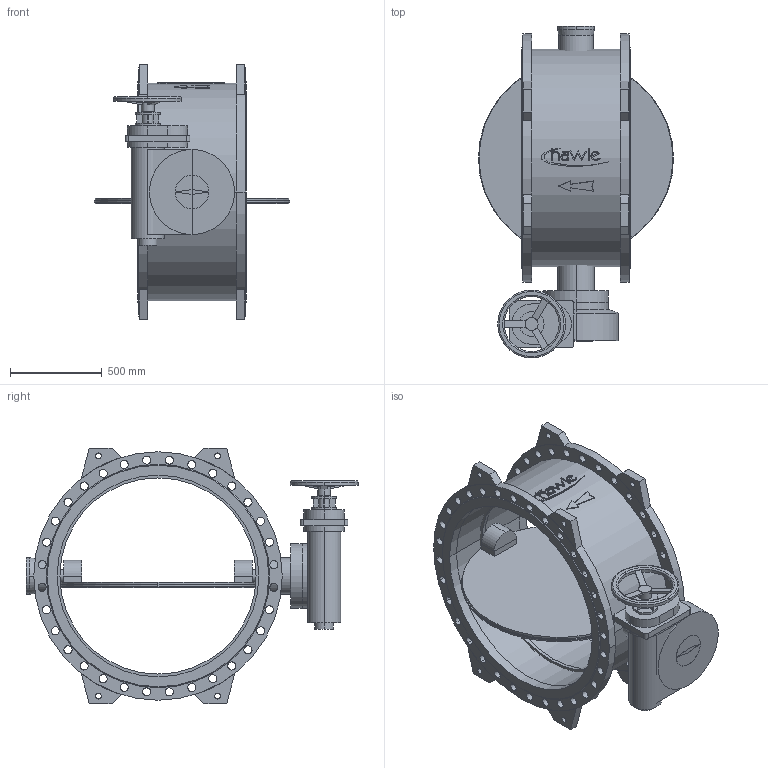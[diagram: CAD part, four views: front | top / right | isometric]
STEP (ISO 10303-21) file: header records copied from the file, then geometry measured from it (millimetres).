
FILE_DESCRIPTION(('STEP AP214'),'1');
FILE_NAME('S:/EK/USER/CAT6/3DHomepage_27-04-2012/neu_08-01-2013/9881K/9881K_PN16_DN1100_7800.STP','2013-03-11T15:56:28',(' '),(' '),'Spatial InterOp 3D',' ',' ');
FILE_SCHEMA(('automotive_design'));
Length unit declared in the file: millimetre
Products named in the file (53): 3D-Objekt
Bounding box: 1064 x 1811 x 1392 mm (x, y, z)
Volume: 243508725.9 mm3; surface area: 13303685.1 mm2
Topology: 53 solids, 53 shells, 507 faces, 1196 edges, 798 vertices
Faces by surface type: cylinder 265, plane 230, cone 8, torus 4
Entity records: 20423 total; most frequent: DIRECTION 2892, CARTESIAN_POINT 2554, ORIENTED_EDGE 2392, EDGE_CURVE 1196, AXIS2_PLACEMENT_3D 1136, VERTEX_POINT 798, EDGE_LOOP 672, LINE 620
